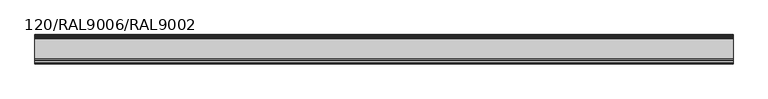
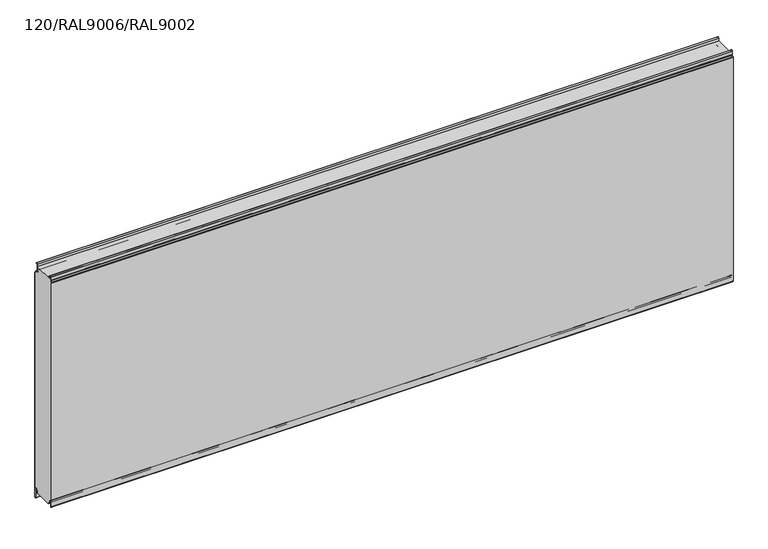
"""IFC4 building model written with IfcOpenShell, lengths in millimetres: plate geometry, TR_C_H_FHL_Panel : 120/RAL9006/RAL9002."""

from ifc_helpers import new_model, si_unit, point, frame, frame_2d, origin, place, context, project, spatial, polyline, circle_curve, trimmed, segment, composite_curve, outline, extrude, source, transform, mapped, element, save


def plate_120_ral9006_ral9002_e4264d30(model_context):
    return source(origin(), model_context, "Body", "SweptSolid", [
        extrude(outline(composite_curve([segment(polyline([(-17.4455763, 1000.0), (-17.6, 998.2349288), (-17.6, 979.1)]), True, "CONTINUOUS"), segment(trimmed(circle_curve(frame_2d((-14.8, 979.1)), 2.8), [point((-17.6, 979.1))], [point((-14.8, 976.3))], True, "CARTESIAN"), True, "CONTINUOUS"), segment(polyline([(-14.8, 976.3), (-8.9, 976.3)]), True, "CONTINUOUS"), segment(trimmed(circle_curve(frame_2d((-8.9, 974.4)), 1.9), [point((-8.9, 976.3))], [point((-7.0, 974.4))], False, "CARTESIAN"), True, "CONTINUOUS"), segment(polyline([(-7.0, 974.4), (-7.0, 971.5838835)]), True, "CONTINUOUS"), segment(trimmed(circle_curve(frame_2d((-4.2, 971.5838835)), 2.8), [point((-7.0, 971.5838835))], [point((-6.179899, 969.6039845))], True, "CARTESIAN"), True, "CONTINUOUS"), segment(polyline([(-6.179899, 969.6039845), (-1.3564971, 964.7805826)]), True, "CONTINUOUS"), segment(trimmed(circle_curve(frame_2d((-2.7, 963.4370797)), 1.9), [point((-1.3564971, 964.7805826))], [point((-0.8, 963.4370797))], False, "CARTESIAN"), True, "CONTINUOUS"), segment(polyline([(-0.8, 963.4370797), (-0.8, 15.9993484), (-12.3520294, 15.9993484)]), True, "CONTINUOUS"), segment(trimmed(circle_curve(frame_2d((-12.3520294, 11.0993484)), 4.9), [point((-12.3520294, 15.9993484))], [point((-17.2333835, 11.5264116))], True, "CARTESIAN"), True, "CONTINUOUS"), segment(polyline([(-17.2333835, 11.5264116), (-18.0972969, 1.6518352)]), True, "CONTINUOUS"), segment(trimmed(circle_curve(frame_2d((-19.7908279, 1.8)), 1.7), [point((-18.0972969, 1.6518352))], [point((-19.7908279, 0.1))], False, "CARTESIAN"), True, "CONTINUOUS"), segment(polyline([(-19.7908279, 0.1), (-20.8, 0.0), (-94.86, 0.0), (-94.86, 7.9), (-102.3925589, 7.9)]), True, "CONTINUOUS"), segment(trimmed(circle_curve(frame_2d((-102.3925589, 10.85)), 2.95), [point((-102.3925589, 7.9))], [point((-105.2977418, 10.3377379))], False, "CARTESIAN"), True, "CONTINUOUS"), segment(polyline([(-105.2977418, 10.3377379), (-106.364567, 16.3880048)]), True, "CONTINUOUS"), segment(trimmed(circle_curve(frame_2d((-110.55, 15.65)), 4.25), [point((-106.364567, 16.3880048))], [point((-110.55, 19.9))], True, "CARTESIAN"), True, "CONTINUOUS"), segment(polyline([(-110.55, 19.9), (-119.2, 19.9), (-119.2, 989.8218254)]), True, "CONTINUOUS"), segment(trimmed(circle_curve(frame_2d((-117.0, 989.8218254)), 2.2), [point((-119.2, 989.8218254))], [point((-118.5556349, 991.3774603))], False, "CARTESIAN"), True, "CONTINUOUS"), segment(polyline([(-118.5556349, 991.3774603), (-114.1665476, 995.7665476)]), True, "CONTINUOUS"), segment(trimmed(circle_curve(frame_2d((-116.5, 998.1)), 3.3), [point((-114.1665476, 995.7665476))], [point((-113.2, 998.1))], True, "CARTESIAN"), True, "CONTINUOUS"), segment(polyline([(-113.2, 998.1), (-113.2, 1000.0), (-17.4455763, 1000.0)]), True, "CONTINUOUS")], self_intersect=False)), frame((-1370.0, 0.0, 0.0), z_axis=(1.0, 0.0, 0.0), x_axis=(0.0, 1.0, 0.0)), (0.0, 0.0, 1.0), 2850.0),
        extrude(outline(composite_curve([segment(polyline([(-0.8, -25.1006169), (-0.8, 963.4370797)]), True, "CONTINUOUS"), segment(trimmed(circle_curve(frame_2d((-2.7, 963.4370797)), 1.9), [point((-0.8, 963.4370797))], [point((-1.3564971, 964.7805826))], True, "CARTESIAN"), True, "CONTINUOUS"), segment(polyline([(-1.3564971, 964.7805826), (-6.179899, 969.6039845)]), True, "CONTINUOUS"), segment(trimmed(circle_curve(frame_2d((-4.2, 971.5838835)), 2.8), [point((-6.179899, 969.6039845))], [point((-7.0, 971.5838835))], False, "CARTESIAN"), True, "CONTINUOUS"), segment(polyline([(-7.0, 971.5838835), (-7.0, 974.4)]), True, "CONTINUOUS"), segment(trimmed(circle_curve(frame_2d((-8.9, 974.4)), 1.9), [point((-7.0, 974.4))], [point((-8.9, 976.3))], True, "CARTESIAN"), True, "CONTINUOUS"), segment(polyline([(-8.9, 976.3), (-14.8, 976.3)]), True, "CONTINUOUS"), segment(trimmed(circle_curve(frame_2d((-14.8, 979.1)), 2.8), [point((-14.8, 976.3))], [point((-17.6, 979.1))], False, "CARTESIAN"), True, "CONTINUOUS"), segment(polyline([(-17.6, 979.1), (-17.6, 998.2349288), (-16.5051936, 1010.748623)]), True, "CONTINUOUS"), segment(trimmed(circle_curve(frame_2d((-12.5204148, 1010.4)), 4.0), [point((-16.5051936, 1010.748623))], [point((-8.7383405, 1011.7022726))], False, "CARTESIAN"), True, "CONTINUOUS"), segment(polyline([(-8.7383405, 1011.7022726), (-8.4287263, 1010.8030877), (-9.1851412, 1010.5426332), (-9.4947554, 1011.4418181)]), True, "CONTINUOUS"), segment(trimmed(circle_curve(frame_2d((-12.5204148, 1010.4)), 3.2), [point((-9.4947554, 1011.4418181))], [point((-15.7082379, 1010.6788984))], True, "CARTESIAN"), True, "CONTINUOUS"), segment(polyline([(-15.7082379, 1010.6788984), (-16.8, 998.2), (-16.8, 979.1)]), True, "CONTINUOUS"), segment(trimmed(circle_curve(frame_2d((-14.8, 979.1)), 2.0), [point((-16.8, 979.1))], [point((-14.8, 977.1))], True, "CARTESIAN"), True, "CONTINUOUS"), segment(polyline([(-14.8, 977.1), (-8.9, 977.1)]), True, "CONTINUOUS"), segment(trimmed(circle_curve(frame_2d((-8.9, 974.4)), 2.7), [point((-8.9, 977.1))], [point((-6.2, 974.4))], False, "CARTESIAN"), True, "CONTINUOUS"), segment(polyline([(-6.2, 974.4), (-6.2, 971.5838835)]), True, "CONTINUOUS"), segment(trimmed(circle_curve(frame_2d((-4.2, 971.5838835)), 2.0), [point((-6.2, 971.5838835))], [point((-5.6142136, 970.1696699))], True, "CARTESIAN"), True, "CONTINUOUS"), segment(polyline([(-5.6142136, 970.1696699), (-0.7908117, 965.346268)]), True, "CONTINUOUS"), segment(trimmed(circle_curve(frame_2d((-2.7, 963.4370797)), 2.7), [point((-0.7908117, 965.346268))], [point((0.0, 963.4370797))], False, "CARTESIAN"), True, "CONTINUOUS"), segment(polyline([(0.0, 963.4370797), (0.0, -25.1006169)]), True, "CONTINUOUS"), segment(trimmed(circle_curve(frame_2d((-2.7, -25.1006169)), 2.7), [point((0.0, -25.1006169))], [point((-0.8586044, -27.0752719))], False, "CARTESIAN"), True, "CONTINUOUS"), segment(polyline([(-0.8586044, -27.0752719), (-2.8042031, -28.889572)]), True, "CONTINUOUS"), segment(trimmed(circle_curve(frame_2d((-4.1, -27.5)), 1.9), [point((-2.8042031, -28.889572))], [point((-6.0, -27.5))], False, "CARTESIAN"), True, "CONTINUOUS"), segment(polyline([(-6.0, -27.5), (-6.0, 4.8267282)]), True, "CONTINUOUS"), segment(trimmed(circle_curve(frame_2d((-8.5, 4.8267282)), 2.5), [point((-6.0, 4.8267282))], [point((-6.1362036, 5.6406486))], True, "CARTESIAN"), True, "CONTINUOUS"), segment(polyline([(-6.1362036, 5.6406486), (-8.4754033, 12.4341779)]), True, "CONTINUOUS"), segment(trimmed(circle_curve(frame_2d((-12.3520294, 11.0993484)), 4.1), [point((-8.4754033, 12.4341779))], [point((-16.4364277, 11.456687))], True, "CARTESIAN"), True, "CONTINUOUS"), segment(polyline([(-16.4364277, 11.456687), (-17.3003412, 1.5821106)]), True, "CONTINUOUS"), segment(trimmed(circle_curve(frame_2d((-19.7908279, 1.8)), 2.5), [point((-17.3003412, 1.5821106))], [point((-19.7908279, -0.7))], False, "CARTESIAN"), True, "CONTINUOUS"), segment(polyline([(-19.7908279, -0.7), (-20.8, -0.7), (-20.8, 0.1), (-19.7908279, 0.1)]), True, "CONTINUOUS"), segment(trimmed(circle_curve(frame_2d((-19.7908279, 1.8)), 1.7), [point((-19.7908279, 0.1))], [point((-18.0972969, 1.6518352))], True, "CARTESIAN"), True, "CONTINUOUS"), segment(polyline([(-18.0972969, 1.6518352), (-17.2333835, 11.5264116)]), True, "CONTINUOUS"), segment(trimmed(circle_curve(frame_2d((-12.3520294, 11.0993484)), 4.9), [point((-17.2333835, 11.5264116))], [point((-7.7189884, 12.6946324))], False, "CARTESIAN"), True, "CONTINUOUS"), segment(polyline([(-7.7189884, 12.6946324), (-5.3797887, 5.9011031)]), True, "CONTINUOUS"), segment(trimmed(circle_curve(frame_2d((-8.5, 4.8267282)), 3.3), [point((-5.3797887, 5.9011031))], [point((-5.2, 4.8267282))], False, "CARTESIAN"), True, "CONTINUOUS"), segment(polyline([(-5.2, 4.8267282), (-5.2, -27.5)]), True, "CONTINUOUS"), segment(trimmed(circle_curve(frame_2d((-4.1, -27.5)), 1.1), [point((-5.2, -27.5))], [point((-3.3498018, -28.3044891))], True, "CARTESIAN"), True, "CONTINUOUS"), segment(polyline([(-3.3498018, -28.3044891), (-1.4042031, -26.4901889)]), True, "CONTINUOUS"), segment(trimmed(circle_curve(frame_2d((-2.7, -25.1006169)), 1.9), [point((-1.4042031, -26.4901889))], [point((-0.8, -25.1006169))], True, "CARTESIAN"), True, "CONTINUOUS")], self_intersect=False)), frame((-1370.0, 0.0, 0.0), z_axis=(1.0, 0.0, 0.0), x_axis=(0.0, 1.0, 0.0)), (0.0, 0.0, 1.0), 2850.0),
        extrude(outline(composite_curve([segment(polyline([(-99.0, 7.1), (-102.3925589, 7.1)]), True, "CONTINUOUS"), segment(trimmed(circle_curve(frame_2d((-102.3925589, 10.85)), 3.75), [point((-102.3925589, 7.1))], [point((-106.085588, 10.1988193))], False, "CARTESIAN"), True, "CONTINUOUS"), segment(polyline([(-106.085588, 10.1988193), (-107.1524133, 16.2490862)]), True, "CONTINUOUS"), segment(trimmed(circle_curve(frame_2d((-110.55, 15.65)), 3.45), [point((-107.1524133, 16.2490862))], [point((-114.0, 15.65))], True, "CARTESIAN"), True, "CONTINUOUS"), segment(polyline([(-114.0, 15.65), (-114.0, -1.95)]), True, "CONTINUOUS"), segment(trimmed(circle_curve(frame_2d((-115.95, -1.95)), 1.95), [point((-114.0, -1.95))], [point((-117.3288582, -3.3288582))], False, "CARTESIAN"), True, "CONTINUOUS"), segment(polyline([(-117.3288582, -3.3288582), (-119.1945436, -1.4631728)]), True, "CONTINUOUS"), segment(trimmed(circle_curve(frame_2d((-117.25, 0.4813708)), 2.75), [point((-119.1945436, -1.4631728))], [point((-120.0, 0.4813708))], False, "CARTESIAN"), True, "CONTINUOUS"), segment(polyline([(-120.0, 0.4813708), (-120.0, 989.8218254)]), True, "CONTINUOUS"), segment(trimmed(circle_curve(frame_2d((-117.0, 989.8218254)), 3.0), [point((-120.0, 989.8218254))], [point((-119.1213203, 991.9431458))], False, "CARTESIAN"), True, "CONTINUOUS"), segment(polyline([(-119.1213203, 991.9431458), (-114.732233, 996.332233)]), True, "CONTINUOUS"), segment(trimmed(circle_curve(frame_2d((-116.5, 998.1)), 2.5), [point((-114.732233, 996.332233))], [point((-114.0, 998.1))], True, "CARTESIAN"), True, "CONTINUOUS"), segment(polyline([(-114.0, 998.1), (-114.0, 1012.85)]), True, "CONTINUOUS"), segment(trimmed(circle_curve(frame_2d((-110.75, 1012.85)), 3.25), [point((-114.0, 1012.85))], [point((-107.5493748, 1013.4143566))], False, "CARTESIAN"), True, "CONTINUOUS"), segment(polyline([(-107.5493748, 1013.4143566), (-106.8060618, 1009.1988193)]), True, "CONTINUOUS"), segment(trimmed(circle_curve(frame_2d((-103.1130328, 1009.85)), 3.75), [point((-106.8060618, 1009.1988193))], [point((-103.1130328, 1006.1))], True, "CARTESIAN"), True, "CONTINUOUS"), segment(polyline([(-103.1130328, 1006.1), (-99.0, 1006.1), (-99.0, 1005.3), (-103.1130328, 1005.3)]), True, "CONTINUOUS"), segment(trimmed(circle_curve(frame_2d((-103.1130328, 1009.85)), 4.55), [point((-103.1130328, 1005.3))], [point((-107.5939081, 1009.0599008))], False, "CARTESIAN"), True, "CONTINUOUS"), segment(polyline([(-107.5939081, 1009.0599008), (-108.337221, 1013.275438)]), True, "CONTINUOUS"), segment(trimmed(circle_curve(frame_2d((-110.75, 1012.85)), 2.45), [point((-108.337221, 1013.275438))], [point((-113.2, 1012.85))], True, "CARTESIAN"), True, "CONTINUOUS"), segment(polyline([(-113.2, 1012.85), (-113.2, 998.1)]), True, "CONTINUOUS"), segment(trimmed(circle_curve(frame_2d((-116.5, 998.1)), 3.3), [point((-113.2, 998.1))], [point((-114.1665476, 995.7665476))], False, "CARTESIAN"), True, "CONTINUOUS"), segment(polyline([(-114.1665476, 995.7665476), (-118.5556349, 991.3774603)]), True, "CONTINUOUS"), segment(trimmed(circle_curve(frame_2d((-117.0, 989.8218254)), 2.2), [point((-118.5556349, 991.3774603))], [point((-119.2, 989.8218254))], True, "CARTESIAN"), True, "CONTINUOUS"), segment(polyline([(-119.2, 989.8218254), (-119.2, 0.4813708)]), True, "CONTINUOUS"), segment(trimmed(circle_curve(frame_2d((-117.25, 0.4813708)), 1.95), [point((-119.2, 0.4813708))], [point((-118.6288582, -0.8974874))], True, "CARTESIAN"), True, "CONTINUOUS"), segment(polyline([(-118.6288582, -0.8974874), (-116.7631728, -2.7631728)]), True, "CONTINUOUS"), segment(trimmed(circle_curve(frame_2d((-115.95, -1.95)), 1.15), [point((-116.7631728, -2.7631728))], [point((-114.8, -1.95))], True, "CARTESIAN"), True, "CONTINUOUS"), segment(polyline([(-114.8, -1.95), (-114.8, 15.65)]), True, "CONTINUOUS"), segment(trimmed(circle_curve(frame_2d((-110.55, 15.65)), 4.25), [point((-114.8, 15.65))], [point((-106.364567, 16.3880048))], False, "CARTESIAN"), True, "CONTINUOUS"), segment(polyline([(-106.364567, 16.3880048), (-105.2977418, 10.3377379)]), True, "CONTINUOUS"), segment(trimmed(circle_curve(frame_2d((-102.3925589, 10.85)), 2.95), [point((-105.2977418, 10.3377379))], [point((-102.3925589, 7.9))], True, "CARTESIAN"), True, "CONTINUOUS"), segment(polyline([(-102.3925589, 7.9), (-99.0, 7.9), (-99.0, 7.1)]), True, "CONTINUOUS")], self_intersect=False)), frame((-1370.0, 0.0, 0.0), z_axis=(1.0, 0.0, 0.0), x_axis=(0.0, 1.0, 0.0)), (0.0, 0.0, 1.0), 2850.0),
    ])


if __name__ == "__main__":
    model = new_model("IFC4")
    model_context = context("Model", 3, world=origin())
    ifc_project = project(units=[si_unit("LENGTHUNIT", "METRE", prefix="MILLI")], contexts=[model_context])
    site = spatial("IfcSite", under=ifc_project)
    building = spatial("IfcBuilding", under=site)
    placement = place(None, origin())
    plate_120_ral9006_ral9002_shape = plate_120_ral9006_ral9002_e4264d30(model_context)
    element("IfcPlate", 1, ObjectType="TR_C_H_FHL_Panel : 120/RAL9006/RAL9002", at=placement, inside=building, context=model_context, shape_type="MappedRepresentation", body=[
        mapped(plate_120_ral9006_ral9002_shape, transform((0.0, 0.0, 0.0), x_axis=(1.0, 0.0, 0.0), y_axis=(0.0, 1.0, 0.0), z_axis=(0.0, 0.0, 1.0))),
    ])
    save(model, "model.ifc")
